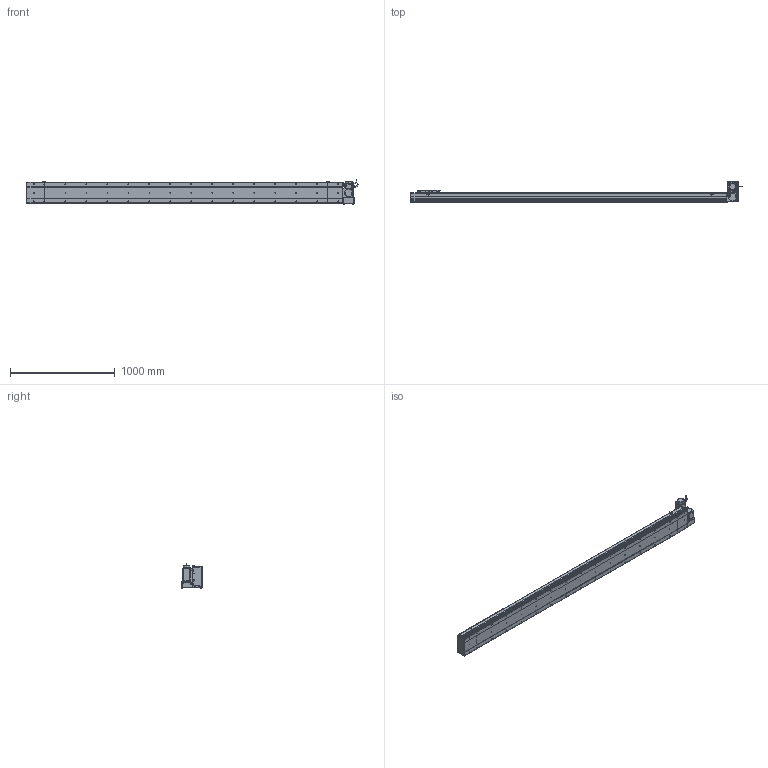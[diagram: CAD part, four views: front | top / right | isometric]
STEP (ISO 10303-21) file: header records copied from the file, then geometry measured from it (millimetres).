
FILE_DESCRIPTION (( 'STEP AP214' ), '1' );
FILE_NAME ('D20 CBH RT S2700.STEP', '2010-06-30T10:24:52', ( 'Conseil Régional Haute-Normandie' ), ( 'Conseil Régional Haute-Normandie' ), 'SwSTEP 2.0', 'SolidWorks 2010', '' );
FILE_SCHEMA (( 'AUTOMOTIVE_DESIGN' ));
Length unit declared in the file: millimetre
Products named in the file (31): vis M5 L15_Default; Plaque De Serrage D20_Default; Tail D20+100_Default; Couvercle S2700_Default; Corp S2700_Default; Plaque de Bout Tail D20_Default; Couvercle_Default; Corp Tail D20+100_Default; Corp D20 S2700_Default; Couvercle RT_Default; Corp Tail D20 RT_Default; Head RT_Default; D20 CBH RT S2700; Support moteur RT_Default; Plaque De Serrage D20 RT_Default; Plaque de Bout Head D20 RT_Default; corps 90BLDC125A-640; avant 90BLDC125A-640; Moteur motionking 90BLDC125A-640; Conecteur_Default; Conecteur2_Default; codeur 90BLDC125-640; Cache Support Moteur RT_Default; ecrou_Default; vis M5 L30_Default; Chariot D20_Default; Rondelle Cache D20 RT_Default; vis M5 L47_Default; Glissiere_Default; Support Chariot D20_Default
Assembly tree (68 placements, depth 4):
  D20 CBH RT S2700
    Head RT_Default
      vis M5 L47_Default  x4
      vis M5 L30_Default  x4
      Couvercle RT_Default
      vis M5 L15_Default  x14
      Plaque De Serrage D20 RT_Default
      Rondelle Cache D20 RT_Default  x3
      Cache Support Moteur RT_Default
      Moteur motionking 90BLDC125A-640
        codeur 90BLDC125-640
        Conecteur_Default
        Conecteur2_Default
        avant 90BLDC125A-640
        corps 90BLDC125A-640
      ecrou_Default  x4
      Support moteur RT_Default
      Plaque de Bout Head D20 RT_Default
      Corp Tail D20 RT_Default
    Corp D20 S2700_Default
      Corp S2700_Default
      Couvercle S2700_Default
    Tail D20+100_Default
      vis M5 L15_Default  x6
      Plaque De Serrage D20_Default
      Corp Tail D20+100_Default
      Couvercle_Default
      Plaque de Bout Tail D20_Default
    Chariot D20_Default
      Glissiere_Default
      vis M5 L15_Default  x8
      Support Chariot D20_Default
      Chariot D20_Default
Bounding box: 3164.45 x 206.5 x 229.7 mm (x, y, z)
Volume: 21346094.3 mm3; surface area: 4121501.5 mm2
Topology: 105 solids, 105 shells, 3856 faces, 9588 edges, 6226 vertices
Faces by surface type: plane 2143, bspline 806, cylinder 736, torus 95, cone 72, sphere 4
Entity records: 160550 total; most frequent: CARTESIAN_POINT 82502, ORIENTED_EDGE 15444, DIRECTION 11830, EDGE_CURVE 7722, VERTEX_POINT 5110, VECTOR 4978, LINE 4978, AXIS2_PLACEMENT_3D 3426
